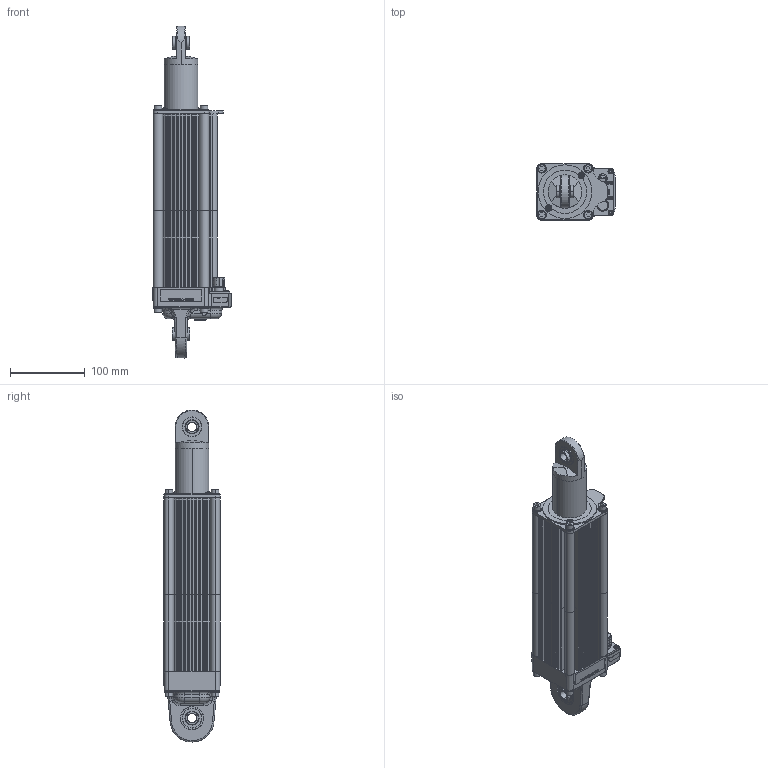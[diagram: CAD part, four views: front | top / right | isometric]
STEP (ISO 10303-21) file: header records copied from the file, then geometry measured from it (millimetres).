
FILE_DESCRIPTION (( 'STEP AP214' ), '1' );
FILE_NAME ('AG_9313.STEP', '2022-07-26T08:45:39', ( '' ), ( '' ), 'SwSTEP 2.0', 'SolidWorks 2019', '' );
FILE_SCHEMA (( 'AUTOMOTIVE_DESIGN' ));
Length unit declared in the file: millimetre
Products named in the file (1): AG_9313
Bounding box: 105.43 x 76.28 x 444.5 mm (x, y, z)
Volume: 1581518.7 mm3; surface area: 329046.5 mm2
Topology: 52 solids, 52 shells, 2934 faces, 7964 edges, 5272 vertices
Faces by surface type: cylinder 1228, plane 1206, bspline 244, cone 162, torus 60, sphere 34
Entity records: 144442 total; most frequent: CARTESIAN_POINT 37521, ORIENTED_EDGE 15816, DIRECTION 15379, EDGE_CURVE 7908, AXIS2_PLACEMENT_3D 5594, VERTEX_POINT 5260, LINE 4191, VECTOR 4191
